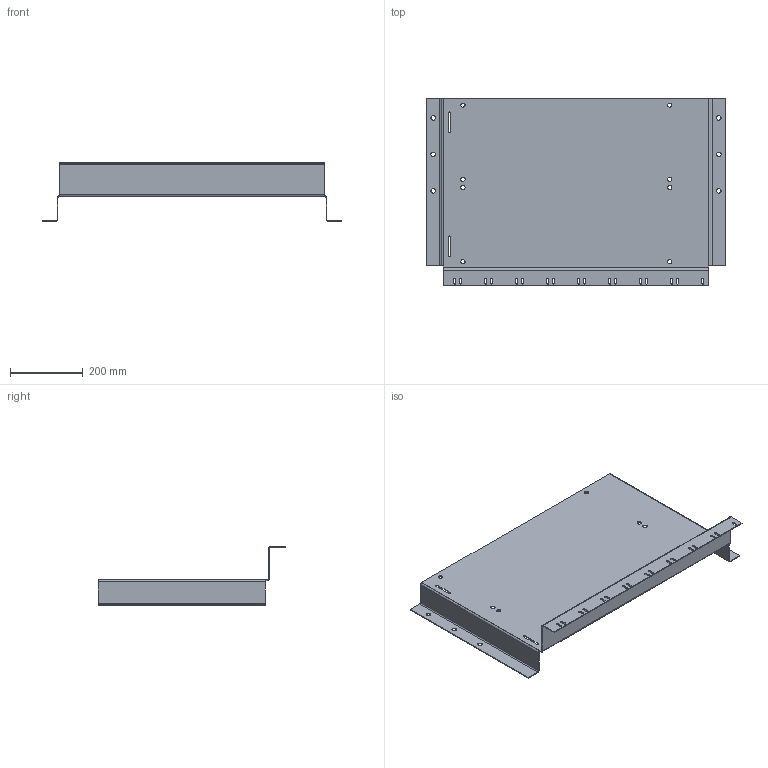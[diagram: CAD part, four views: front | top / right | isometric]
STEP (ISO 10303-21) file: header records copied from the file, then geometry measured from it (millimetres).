
FILE_DESCRIPTION (( 'STEP AP214' ), '1' );
FILE_NAME ('Blech 4.STEP', '2026-07-21T08:35:17', ( '' ), ( '' ), 'SwSTEP 2.0', 'SolidWorks 2023', '' );
FILE_SCHEMA (( 'AUTOMOTIVE_DESIGN' ));
Length unit declared in the file: millimetre
Products named in the file (1): Blech 4
Bounding box: 820 x 513 x 161.6 mm (x, y, z)
Volume: 1336303.5 mm3; surface area: 1080380.6 mm2
Topology: 1 solids, 1 shells, 152 faces, 418 edges, 268 vertices
Faces by surface type: cylinder 78, plane 74
Entity records: 4997 total; most frequent: DIRECTION 880, CARTESIAN_POINT 839, ORIENTED_EDGE 836, EDGE_CURVE 418, AXIS2_PLACEMENT_3D 309, VERTEX_POINT 268, VECTOR 262, LINE 262
